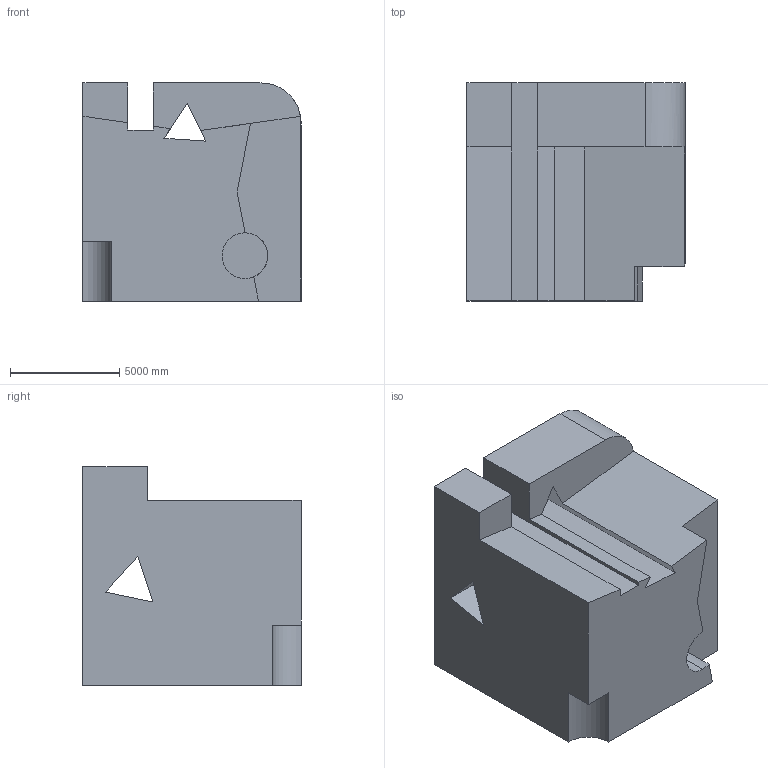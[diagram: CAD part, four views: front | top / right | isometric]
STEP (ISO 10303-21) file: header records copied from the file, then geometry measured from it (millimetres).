
FILE_DESCRIPTION (( 'STEP AP203' ), '1' );
FILE_NAME ('966.STEP', '2022-07-29T14:46:06', ( 'user' ), ( '' ), 'SwSTEP 2.0', 'SolidWorks 2021', '' );
FILE_SCHEMA (( 'CONFIG_CONTROL_DESIGN' ));
Length unit declared in the file: centimetre
Products named in the file (1): 966
Bounding box: 10000 x 10000 x 10000 mm (x, y, z)
Volume: 753713516134.3 mm3; surface area: 713062483.1 mm2
Topology: 1 solids, 1 shells, 40 faces, 120 edges, 79 vertices
Faces by surface type: plane 30, cylinder 9, bspline 1
Entity records: 1742 total; most frequent: CARTESIAN_POINT 582, ORIENTED_EDGE 238, DIRECTION 208, EDGE_CURVE 119, VECTOR 94, LINE 94, VERTEX_POINT 79, AXIS2_PLACEMENT_3D 57
